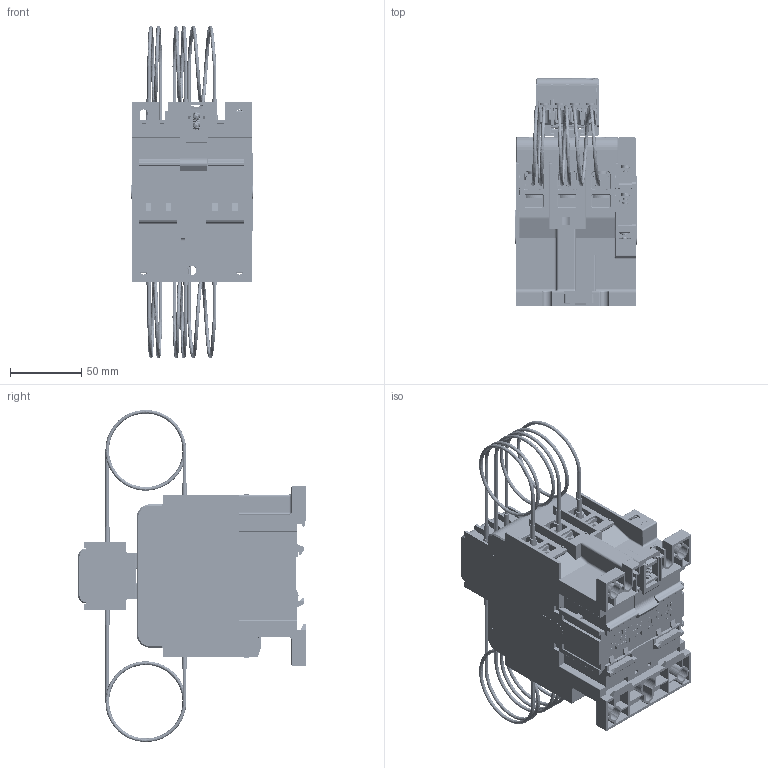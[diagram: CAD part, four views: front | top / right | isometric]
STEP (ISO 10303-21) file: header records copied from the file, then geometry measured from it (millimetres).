
FILE_DESCRIPTION((''),'2;1');
FILE_NAME('CDC19S-95-115','2020-11-04T',('yunfei.yang'),(''),'PRO/ENGINEER BY PARAMETRIC TECHNOLOGY CORPORATION, 2015440','PRO/ENGINEER BY PARAMETRIC TECHNOLOGY CORPORATION, 2015440','');
FILE_SCHEMA(('CONFIG_CONTROL_DESIGN'));
Products named in the file (1): CDC19S-95-115
Bounding box: 84.9 x 159.1 x 232.24 mm (x, y, z)
Volume: 834157 mm3; surface area: 254070.3 mm2
Topology: 26 solids, 34 shells, 10418 faces, 28637 edges, 18375 vertices
Faces by surface type: plane 7248, cylinder 1765, extrusion 749, cone 224, torus 197, bspline 184, sphere 51
Entity records: 366893 total; most frequent: CARTESIAN_POINT 104113, ORIENTED_EDGE 57202, DIRECTION 49884, EDGE_CURVE 28601, VECTOR 22254, LINE 21505, VERTEX_POINT 18375, AXIS2_PLACEMENT_3D 13815
